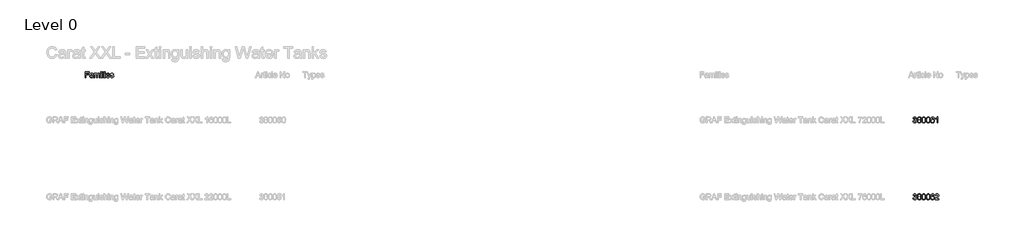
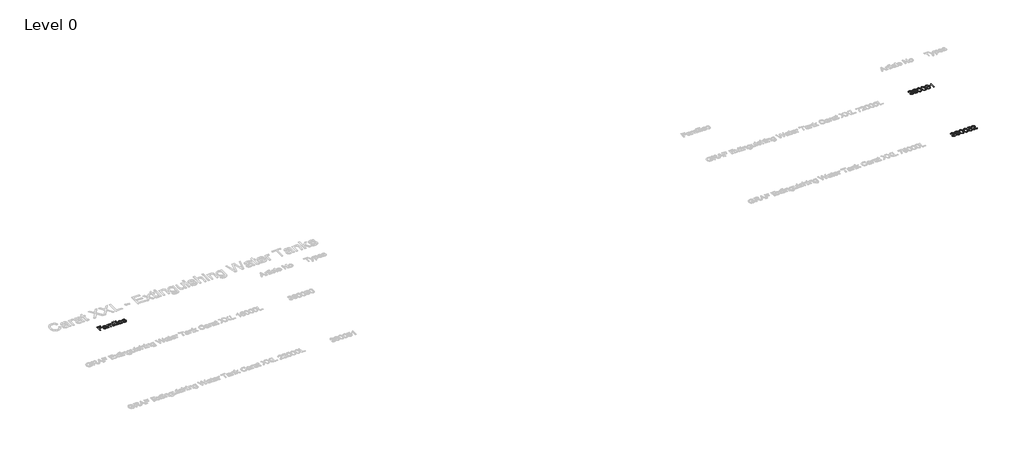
# One storey, part 34 of 37: 3 proxies.
"""IFC4 building model written with IfcOpenShell, lengths in millimetres."""

from ifc_helpers import new_model, si_unit, origin, origin_with_axes, place, context, project, spatial, polyline, outline, extrude, element, save

model = new_model("IFC4")

# Units and contexts
model_context = context("Model", 3, world=origin())
ifc_project = project(units=[si_unit("LENGTHUNIT", "METRE", prefix="MILLI")], contexts=[model_context])

# Site, building, storey
site = spatial("IfcSite", under=ifc_project)
building = spatial("IfcBuilding", under=site)
storey = spatial("IfcBuildingStorey", under=building, Name="Level 0", Elevation=0.0)

# Proxies
placement = place(None, origin())
element("IfcBuildingElementProxy", 1, Name="300mm Arial", ObjectType="300mm Arial", at=placement, inside=storey, context=model_context, shape_type="SweptSolid", body=[
    extrude(outline(polyline([(-15382.9152593, 653.8274553), (-15382.9152593, 949.2120707), (-15184.4537209, 949.2120707), (-15184.4537209, 912.2889938), (-15345.9921824, 912.2889938), (-15345.9921824, 824.5966861), (-15207.530644, 824.5966861), (-15207.530644, 787.6736092), (-15345.9921824, 787.6736092), (-15345.9921824, 653.8274553), (-15382.9152593, 653.8274553)])), origin_with_axes(), (0.0, 0.0, 1.0), 10.0),
    extrude(outline(polyline([(-14999.8383363, 681.519763), (-15017.4795622, 666.3935611), (-15035.6436247, 656.4957246), (-15054.7451872, 651.0329842), (-15075.1989132, 649.2120707), (-15106.0552834, 653.5930803), (-15128.8167017, 666.7361092), (-15142.8521584, 686.6940419), (-15147.530644, 711.519763), (-15145.763817, 726.8262534), (-15140.4633363, 740.7264938), (-15132.2872545, 752.6255323), (-15121.8936247, 761.9284169), (-15096.0402593, 774.0438015), (-15064.093144, 779.5966861), (-15026.3407401, 785.4380323), (-15000.0546824, 792.2889938), (-14999.8383363, 800.5101476), (-15002.3804036, 816.988513), (-15010.0066055, 827.769763), (-15027.061894, 835.7745707), (-15050.8239132, 838.44284), (-15072.8191055, 836.6669986), (-15088.1796824, 831.3394746), (-15098.654442, 821.4867101), (-15105.9921824, 806.1351476), (-15142.9152593, 810.7505323), (-15136.5060045, 830.94284), (-15126.9417017, 846.8082246), (-15113.3299228, 858.941638), (-15094.7782401, 867.9380323), (-15072.0889372, 873.5089457), (-15046.0642978, 875.3659169), (-15021.1033603, 873.7252919), (-15001.3167017, 868.8034169), (-14986.3978315, 861.4025755), (-14976.0402593, 852.3250515), (-14969.171269, 841.1020948), (-14964.718144, 827.2649553), (-14962.9152593, 794.957263), (-14962.9152593, 749.019763), (-14961.0402593, 684.8731284), (-14953.6844901, 653.8274553), (-14990.607567, 653.8274553), (-14999.8383363, 681.519763)]), holes=[polyline([(-14999.8383363, 755.3659169), (-15059.405644, 744.0438015), (-15091.1724709, 738.0582246), (-15105.5594901, 728.3226476), (-15110.607567, 714.1159169), (-15107.858168, 703.1363496), (-15099.6099709, 694.1399553), (-15086.0432642, 688.1363496), (-15067.3383363, 686.1351476), (-15047.5066055, 688.3436813), (-15029.982567, 694.9692823), (-15015.7758363, 704.7319025), (-15005.8960286, 716.3514938), (-15001.515019, 728.3226476), (-15000.0546824, 744.9091861), (-14999.8383363, 755.3659169)])]), origin_with_axes(), (0.0, 0.0, 1.0), 10.0),
    extrude(outline(polyline([(-14912.1460286, 653.8274553), (-14912.1460286, 870.7505323), (-14875.2229517, 870.7505323), (-14875.2229517, 835.0534169), (-14864.1171824, 851.4506525), (-14849.8383363, 864.2962053), (-14832.873192, 872.598489), (-14813.7085286, 875.3659169), (-14793.1736728, 872.5444025), (-14776.7133363, 864.0798592), (-14764.4176632, 850.5311813), (-14756.3767978, 832.457263), (-14742.9182642, 851.2297991), (-14727.5667017, 864.6387534), (-14710.3221103, 872.684126), (-14691.1844901, 875.3659169), (-14663.4290815, 870.9037775), (-14642.9032401, 857.5173592), (-14630.2199468, 834.8460851), (-14625.9921824, 802.5293784), (-14625.9921824, 653.8274553), (-14662.9152593, 653.8274553), (-14662.9152593, 786.6639938), (-14666.3407401, 817.4933207), (-14671.154442, 825.9939217), (-14678.7445863, 832.6736092), (-14688.5072065, 837.0005323), (-14699.8383363, 838.44284), (-14719.8413411, 834.7469265), (-14736.1484324, 823.6591861), (-14746.9927834, 804.4224073), (-14750.607567, 776.2793784), (-14750.607567, 653.8274553), (-14787.530644, 653.8274553), (-14787.530644, 790.7745707), (-14789.6670622, 811.6519746), (-14796.076317, 826.5438015), (-14807.3533603, 835.4680803), (-14824.093144, 838.44284), (-14838.3179036, 836.4596669), (-14851.4248747, 830.5101476), (-14862.2421824, 820.738513), (-14869.5979517, 807.2889938), (-14873.8167017, 788.629138), (-14875.2229517, 763.2264938), (-14875.2229517, 653.8274553), (-14912.1460286, 653.8274553)])), origin_with_axes(), (0.0, 0.0, 1.0), 10.0),
    extrude(outline(polyline([(-14570.607567, 912.2889938), (-14570.607567, 949.2120707), (-14533.6844901, 949.2120707), (-14533.6844901, 912.2889938), (-14570.607567, 912.2889938)])), origin_with_axes(), (0.0, 0.0, 1.0), 10.0),
    extrude(outline(polyline([(-14570.607567, 653.8274553), (-14570.607567, 870.7505323), (-14533.6844901, 870.7505323), (-14533.6844901, 653.8274553), (-14570.607567, 653.8274553)])), origin_with_axes(), (0.0, 0.0, 1.0), 10.0),
    extrude(outline(polyline([(-14478.2998747, 653.8274553), (-14478.2998747, 949.2120707), (-14441.3767978, 949.2120707), (-14441.3767978, 653.8274553), (-14478.2998747, 653.8274553)])), origin_with_axes(), (0.0, 0.0, 1.0), 10.0),
    extrude(outline(polyline([(-14385.9921824, 912.2889938), (-14385.9921824, 949.2120707), (-14349.0691055, 949.2120707), (-14349.0691055, 912.2889938), (-14385.9921824, 912.2889938)])), origin_with_axes(), (0.0, 0.0, 1.0), 10.0),
    extrude(outline(polyline([(-14385.9921824, 653.8274553), (-14385.9921824, 870.7505323), (-14349.0691055, 870.7505323), (-14349.0691055, 653.8274553), (-14385.9921824, 653.8274553)])), origin_with_axes(), (0.0, 0.0, 1.0), 10.0),
    extrude(outline(polyline([(-14141.8094901, 718.44284), (-14105.607567, 713.8274553), (-14118.6514372, 686.5498111), (-14139.4657401, 666.1591861), (-14167.5817257, 653.4488496), (-14202.530644, 649.2120707), (-14225.4408002, 651.039745), (-14245.8539613, 656.5227678), (-14263.7701271, 665.6611392), (-14279.1892978, 678.4548592), (-14291.5886367, 694.547858), (-14300.4453074, 713.5840659), (-14305.7593098, 735.563483), (-14307.530644, 760.4861092), (-14305.741281, 786.2538375), (-14300.373192, 808.9656765), (-14291.4263771, 828.621626), (-14278.9008363, 845.2216861), (-14263.5222305, 858.4097871), (-14246.0162209, 867.8298592), (-14226.3828074, 873.4819025), (-14204.6219901, 875.3659169), (-14183.5620442, 873.4864097), (-14164.5168218, 867.847888), (-14147.486323, 858.450352), (-14132.4705478, 845.2938015), (-14120.213186, 828.7297991), (-14111.4579276, 809.1099073), (-14106.2047726, 786.434126), (-14104.4537209, 760.7024553), (-14104.670067, 750.7505323), (-14270.607567, 750.7505323), (-14264.2163411, 723.1123111), (-14249.3695863, 702.7938015), (-14227.9423026, 690.2998111), (-14201.8094901, 686.1351476), (-14182.1580478, 688.0642342), (-14165.607567, 693.8514938), (-14152.1580478, 703.8575034), (-14141.8094901, 718.44284)]), holes=[polyline([(-14270.607567, 787.6736092), (-14141.3767978, 787.6736092), (-14146.3707882, 807.1808207), (-14156.1604517, 821.1351476), (-14177.686894, 834.1159169), (-14204.7662209, 838.44284), (-14229.655043, 834.9903159), (-14250.2349709, 824.6327438), (-14264.5408603, 808.4879121), (-14270.607567, 787.6736092)])]), origin_with_axes(), (0.0, 0.0, 1.0), 10.0),
    extrude(outline(polyline([(-14081.3767978, 718.44284), (-14044.4537209, 723.0582246), (-14038.6304036, 707.2649553), (-14027.3623747, 695.6543784), (-14010.577519, 688.5149553), (-13988.2037209, 686.1351476), (-13966.1003555, 688.316638), (-13950.5594901, 694.8611092), (-13941.3647786, 704.3442823), (-13938.2998747, 715.3418784), (-13941.3828074, 724.7529361), (-13950.6316055, 731.9284169), (-13988.6364132, 742.457263), (-14044.2373747, 760.5221669), (-14058.3088892, 769.5996909), (-14068.5042017, 781.6159169), (-14074.6971103, 795.8046188), (-14076.7614132, 811.3995707), (-14075.1027593, 825.7054601), (-14070.1267978, 838.91159), (-14062.2842497, 850.4951236), (-14052.0258363, 859.9332246), (-14028.5522786, 870.8587053), (-13996.7854517, 875.3659169), (-13972.7529997, 873.5540178), (-13951.857567, 868.1183207), (-13935.0546824, 859.5906765), (-13923.2998747, 848.5029361), (-13915.5114132, 834.0347871), (-13910.607567, 815.3659169), (-13947.530644, 810.7505323), (-13952.1911007, 822.3701236), (-13961.4128555, 831.1231284), (-13975.2860526, 836.6129121), (-13993.9008363, 838.44284), (-14015.1027593, 836.6940419), (-14029.2373747, 831.4476476), (-14037.1880959, 823.8755323), (-14039.8383363, 815.1495707), (-14035.4392978, 804.4043784), (-14021.6652593, 796.25534), (-13989.8623747, 788.394763), (-13935.6676632, 771.0149553), (-13921.3527593, 762.7036573), (-13910.499394, 751.3274553), (-13903.6574468, 736.8502919), (-13901.3767978, 719.2361092), (-13904.0540815, 701.0269746), (-13912.0859324, 683.8995707), (-13925.1658603, 669.1970467), (-13942.9873747, 658.2625515), (-13964.513817, 651.4746909), (-13988.7085286, 649.2120707), (-14025.9380959, 653.5750515), (-14053.107567, 666.6639938), (-14071.2445863, 688.3346669), (-14081.3767978, 718.44284)])), origin_with_axes(), (0.0, 0.0, 1.0), 10.0),
])
element("IfcBuildingElementProxy", 2, Name="300mm Arial", ObjectType="300mm Arial", at=placement, inside=storey, context=model_context, shape_type="SweptSolid", body=[
    extrude(outline(polyline([(27688.7153576, -1620.925676), (27726.3864739, -1616.2167865), (27734.8201687, -1639.8899929), (27747.1718066, -1655.8744656), (27764.0483932, -1664.979545), (27786.0569335, -1668.0145714), (27811.8822496, -1663.8391108), (27831.8214537, -1651.3127288), (27844.5685649, -1632.6243235), (27848.8176019, -1609.9627926), (27844.6053531, -1588.4508929), (27831.9686065, -1571.0040893), (27812.8387428, -1559.4433976), (27789.1471423, -1555.5898337), (27762.733215, -1559.710112), (27766.9270698, -1522.0389957), (27772.9603345, -1522.4804541), (27795.5298949, -1519.7765215), (27815.7082223, -1511.6647235), (27829.9452556, -1497.942725), (27834.6909333, -1478.4081911), (27831.2512366, -1462.1386099), (27820.9321467, -1448.9408433), (27805.1867973, -1440.1944488), (27785.4683223, -1437.278984), (27765.7130592, -1440.22204), (27749.5630396, -1449.0512079), (27737.7724217, -1463.7664877), (27731.0953635, -1484.3678794), (27693.4242472, -1479.6589899), (27704.5158893, -1445.8322404), (27724.2527583, -1420.5771415), (27751.2552968, -1404.8501862), (27784.1439472, -1399.6078677), (27807.8263506, -1402.1922387), (27829.5773736, -1409.9453518), (27847.916291, -1422.1774281), (27861.362378, -1438.198689), (27869.6121317, -1456.6571681), (27872.3620496, -1476.2008991), (27869.7500874, -1494.4110579), (27861.9142009, -1510.9289595), (27848.9647547, -1525.0004458), (27831.0121133, -1535.8713587), (27854.5933492, -1545.3995024), (27872.067744, -1561.6230984), (27882.8834747, -1583.6592299), (27886.4887182, -1610.6249802), (27884.6860964, -1629.7364498), (27879.2782311, -1647.3396033), (27870.2651222, -1663.4344406), (27857.6467698, -1678.0209617), (27842.2739009, -1690.1242793), (27824.9972427, -1698.7695062), (27805.8167952, -1703.9566423), (27784.7325584, -1705.6856877), (27765.676271, -1704.2095612), (27748.3122408, -1699.7811817), (27732.6404678, -1692.4005492), (27718.660952, -1682.0676636), (27706.9393119, -1669.3895304), (27698.0411662, -1654.9731547), (27691.9665147, -1638.8185366), (27688.7153576, -1620.925676)])), origin_with_axes(), (0.0, 0.0, 1.0), 10.0),
    extrude(outline(polyline([(27974.3389387, -1534.988442), (27954.1698083, -1525.0556281), (27940.0155485, -1511.5911471), (27931.6554302, -1494.8709104), (27928.8687241, -1475.1708295), (27930.3862373, -1459.8071577), (27934.938777, -1445.7218758), (27942.5263431, -1432.9149839), (27953.1489357, -1421.3864818), (27966.2961185, -1411.8583382), (27981.4574553, -1405.0525213), (28017.8225905, -1399.6078677), (28054.4084549, -1405.18128), (28069.7353385, -1412.1480452), (28083.0848564, -1421.9015166), (28093.9005871, -1433.6553464), (28101.626109, -1446.6231867), (28106.2614221, -1460.8050376), (28107.8065265, -1476.2008991), (28105.0566086, -1495.2663835), (28096.8068549, -1511.7015117), (28082.9652948, -1525.0832192), (28063.4399579, -1534.988442), (28086.6257206, -1546.9354097), (28103.5023072, -1564.5293662), (28113.793806, -1586.9241826), (28117.2243056, -1613.2737305), (28115.5228514, -1632.0633034), (28110.4184887, -1649.2893779), (28101.9112175, -1664.9519538), (28090.001038, -1679.0510313), (28075.3133493, -1690.7036935), (28058.473551, -1699.0270236), (28039.481643, -1704.0210217), (28018.3376253, -1705.6856877), (27997.1936076, -1704.0141239), (27978.2016996, -1698.9994325), (27961.3619013, -1690.6416134), (27946.6742126, -1678.9406667), (27934.764033, -1664.7427209), (27926.2567619, -1648.8939047), (27921.1523992, -1631.3942181), (27919.450945, -1612.2436609), (27923.0194003, -1584.8732405), (27933.7247664, -1562.3588624), (27951.0152202, -1545.4730788), (27974.3389387, -1534.988442)]), holes=[polyline([(27966.5398404, -1476.2744755), (27969.8783695, -1492.7188007), (27979.8939568, -1505.8521879), (27996.2922967, -1514.4606266), (28018.7790837, -1517.3301062), (28040.7416388, -1514.4790207), (28056.8916584, -1505.9257643), (28066.8244723, -1493.2338355), (28070.1354102, -1477.9667327), (28066.7141077, -1462.1202158), (28056.4502, -1449.0144197), (28040.0794512, -1440.2128429), (28018.3376253, -1437.278984), (27996.4578436, -1440.1484636), (27980.114686, -1448.7569023), (27969.9335518, -1461.3752547), (27966.5398404, -1476.2744755)]), polyline([(27957.1220613, -1610.9192858), (27963.4128434, -1639.2829876), (27972.1224496, -1651.4506846), (27985.6697041, -1660.5097787), (28001.8933001, -1666.1383732), (28018.6319309, -1668.0145714), (28044.273306, -1664.069037), (28063.5135343, -1652.2324338), (28075.5432755, -1634.3073836), (28079.5531893, -1612.0965081), (28075.4145168, -1589.5085536), (28062.9984995, -1571.1880303), (28043.3168128, -1559.0479244), (28017.3811321, -1555.0012225), (27992.098442, -1558.9927421), (27973.0513517, -1570.9673011), (27961.1043839, -1588.9383365), (27957.1220613, -1610.9192858)])]), origin_with_axes(), (0.0, 0.0, 1.0), 10.0),
    extrude(outline(polyline([(28150.1865324, -1552.7203541), (28152.9548444, -1504.4818275), (28161.2597804, -1466.0105679), (28175.018567, -1436.717964), (28194.1484308, -1416.0154047), (28218.7873274, -1403.709752), (28249.0732127, -1399.6078677), (28272.2865666, -1402.0358889), (28293.0718993, -1409.3199524), (28310.4543236, -1421.1749497), (28323.4589521, -1437.3157722), (28333.2814014, -1457.6044643), (28341.1172879, -1481.9030701), (28346.2492417, -1512.7591724), (28347.959893, -1552.7203541), (28345.2191721, -1600.6829692), (28336.9970095, -1639.0622584), (28323.3209963, -1668.3824534), (28304.2187237, -1689.1677861), (28279.5246448, -1701.5562123), (28249.0732127, -1705.6856877), (28228.3246681, -1703.892263), (28209.9305684, -1698.5119888), (28193.8909134, -1689.5448652), (28180.2057032, -1676.9908921), (28167.0723159, -1654.2971715), (28157.6913251, -1626.0208417), (28152.0627305, -1592.1619025), (28150.1865324, -1552.7203541)]), holes=[polyline([(28187.8576487, -1552.6467777), (28192.2722326, -1611.9033701), (28197.7904625, -1632.1713688), (28205.5159844, -1646.1991691), (28225.2344594, -1662.5607208), (28249.0732127, -1668.0145714), (28272.911966, -1662.5423267), (28292.6304409, -1646.1255927), (28300.3559628, -1632.0747997), (28305.8741927, -1611.8113996), (28310.2887767, -1552.6467777), (28306.0213455, -1494.7237576), (28300.6870566, -1474.5224375), (28293.2190521, -1460.1612441), (28273.5373653, -1442.9995491), (28248.6317543, -1437.278984), (28225.0505184, -1442.3189674), (28206.1045956, -1457.4389174), (28198.1215563, -1473.0739022), (28192.4193854, -1494.1535405), (28187.8576487, -1552.6467777)])]), origin_with_axes(), (0.0, 0.0, 1.0), 10.0),
    extrude(outline(polyline([(28380.9221197, -1552.7203541), (28383.6904318, -1504.4818275), (28391.9953678, -1466.0105679), (28405.7541544, -1436.717964), (28424.8840182, -1416.0154047), (28449.5229148, -1403.709752), (28479.8088, -1399.6078677), (28503.0221539, -1402.0358889), (28523.8074867, -1409.3199524), (28541.1899109, -1421.1749497), (28554.1945395, -1437.3157722), (28564.0169887, -1457.6044643), (28571.8528752, -1481.9030701), (28576.9848291, -1512.7591724), (28578.6954803, -1552.7203541), (28575.9547595, -1600.6829692), (28567.7325969, -1639.0622584), (28554.0565837, -1668.3824534), (28534.9543111, -1689.1677861), (28510.2602322, -1701.5562123), (28479.8088, -1705.6856877), (28459.0602555, -1703.892263), (28440.6661558, -1698.5119888), (28424.6265008, -1689.5448652), (28410.9412905, -1676.9908921), (28397.8079033, -1654.2971715), (28388.4269124, -1626.0208417), (28382.7983179, -1592.1619025), (28380.9221197, -1552.7203541)]), holes=[polyline([(28418.593236, -1552.6467777), (28423.00782, -1611.9033701), (28428.5260499, -1632.1713688), (28436.2515718, -1646.1991691), (28455.9700468, -1662.5607208), (28479.8088, -1668.0145714), (28503.6475533, -1662.5423267), (28523.3660283, -1646.1255927), (28531.0915502, -1632.0747997), (28536.6097801, -1611.8113996), (28541.024364, -1552.6467777), (28536.7569329, -1494.7237576), (28531.422644, -1474.5224375), (28523.9546395, -1460.1612441), (28504.2729527, -1442.9995491), (28479.3673416, -1437.278984), (28455.7861058, -1442.3189674), (28436.840183, -1457.4389174), (28428.8571437, -1473.0739022), (28423.1549728, -1494.1535405), (28418.593236, -1552.6467777)])]), origin_with_axes(), (0.0, 0.0, 1.0), 10.0),
    extrude(outline(polyline([(28804.7221782, -1479.6589899), (28767.0510619, -1484.3678794), (28760.981009, -1465.6978682), (28752.7772405, -1452.950757), (28735.6891218, -1441.1969273), (28715.0325478, -1437.278984), (28697.5213648, -1439.5598524), (28681.0402514, -1446.4024575), (28666.8859916, -1460.8142347), (28655.3252999, -1480.6522713), (28647.5170046, -1508.7124704), (28644.6199339, -1547.7907354), (28659.7306868, -1530.1599908), (28677.839678, -1517.7347764), (28697.935232, -1510.3679394), (28719.0056733, -1507.9123271), (28737.1054675, -1509.5907887), (28753.80731, -1514.6261735), (28769.111201, -1523.0184815), (28783.0171405, -1534.7677128), (28794.5732336, -1549.1748914), (28802.8275859, -1565.5410417), (28807.7801973, -1583.8661635), (28809.4310677, -1604.150257), (28806.3224649, -1631.1252043), (28796.9966563, -1656.131983), (28782.2261942, -1677.34038), (28762.7836307, -1692.9201825), (28739.5518827, -1702.4943114), (28713.413867, -1705.6856877), (28690.9569704, -1703.5703662), (28670.6751762, -1697.2244018), (28652.5684842, -1686.6477945), (28636.6368946, -1671.8405442), (28623.6483609, -1652.1772515), (28614.3708368, -1627.0325171), (28608.8043224, -1596.406341), (28606.9488176, -1560.2987232), (28609.0089567, -1519.8179082), (28615.1893743, -1485.2691903), (28625.4900701, -1456.6525696), (28639.9110443, -1433.9680461), (28655.5414306, -1418.9354681), (28673.6642174, -1408.1979123), (28694.2794047, -1401.7553789), (28717.3869925, -1399.6078677), (28750.4411898, -1404.9237626), (28776.9102993, -1420.8714471), (28795.4515519, -1446.2001224), (28804.7221782, -1479.6589899)]), holes=[polyline([(28644.6199339, -1603.5616459), (28646.7996347, -1620.2542914), (28653.3387372, -1636.1927788), (28663.4922802, -1649.8963831), (28676.5153029, -1659.8843793), (28692.2330611, -1665.9820234), (28710.470811, -1668.0145714), (28735.3304368, -1663.8023226), (28754.8741678, -1651.165576), (28767.5385055, -1631.2999483), (28771.7599514, -1605.4010558), (28767.5936878, -1580.54143), (28755.094897, -1561.5863102), (28735.2200722, -1549.5841601), (28708.9257066, -1545.5834434), (28684.102869, -1549.5841601), (28663.3451274, -1561.5863102), (28649.3012323, -1580.0815775), (28644.6199339, -1603.5616459)])]), origin_with_axes(), (0.0, 0.0, 1.0), 10.0),
    extrude(outline(polyline([(28983.6599806, -1700.9767982), (28945.9888643, -1700.9767982), (28945.9888643, -1466.1209325), (28910.3043108, -1491.5415783), (28870.6466317, -1510.5610775), (28870.6466317, -1474.9501003), (28900.2335412, -1458.8552631), (28925.8657192, -1439.7070052), (28946.0716378, -1419.3447368), (28959.379769, -1399.6078677), (28983.6599806, -1399.6078677), (28983.6599806, -1700.9767982)])), origin_with_axes(), (0.0, 0.0, 1.0), 10.0),
])
element("IfcBuildingElementProxy", 3, Name="300mm Arial", ObjectType="300mm Arial", at=placement, inside=storey, context=model_context, shape_type="SweptSolid", body=[
    extrude(outline(polyline([(27688.7153576, -5620.925676), (27726.3864739, -5616.2167865), (27734.8201687, -5639.8899929), (27747.1718066, -5655.8744656), (27764.0483932, -5664.979545), (27786.0569335, -5668.0145714), (27811.8822496, -5663.8391108), (27831.8214537, -5651.3127288), (27844.5685649, -5632.6243235), (27848.8176019, -5609.9627926), (27844.6053531, -5588.4508929), (27831.9686065, -5571.0040893), (27812.8387428, -5559.4433976), (27789.1471423, -5555.5898337), (27762.733215, -5559.710112), (27766.9270698, -5522.0389957), (27772.9603345, -5522.4804541), (27795.5298949, -5519.7765215), (27815.7082223, -5511.6647235), (27829.9452556, -5497.942725), (27834.6909333, -5478.4081911), (27831.2512366, -5462.1386099), (27820.9321467, -5448.9408433), (27805.1867973, -5440.1944488), (27785.4683223, -5437.278984), (27765.7130592, -5440.22204), (27749.5630396, -5449.0512079), (27737.7724217, -5463.7664877), (27731.0953635, -5484.3678794), (27693.4242472, -5479.6589899), (27704.5158893, -5445.8322404), (27724.2527583, -5420.5771415), (27751.2552968, -5404.8501862), (27784.1439472, -5399.6078677), (27807.8263506, -5402.1922387), (27829.5773736, -5409.9453518), (27847.916291, -5422.1774281), (27861.362378, -5438.198689), (27869.6121317, -5456.6571681), (27872.3620496, -5476.2008991), (27869.7500874, -5494.4110579), (27861.9142009, -5510.9289595), (27848.9647547, -5525.0004458), (27831.0121133, -5535.8713587), (27854.5933492, -5545.3995024), (27872.067744, -5561.6230984), (27882.8834747, -5583.6592299), (27886.4887182, -5610.6249802), (27884.6860964, -5629.7364498), (27879.2782311, -5647.3396033), (27870.2651222, -5663.4344406), (27857.6467698, -5678.0209617), (27842.2739009, -5690.1242793), (27824.9972427, -5698.7695062), (27805.8167952, -5703.9566423), (27784.7325584, -5705.6856877), (27765.676271, -5704.2095612), (27748.3122408, -5699.7811817), (27732.6404678, -5692.4005492), (27718.660952, -5682.0676636), (27706.9393119, -5669.3895304), (27698.0411662, -5654.9731547), (27691.9665147, -5638.8185366), (27688.7153576, -5620.925676)])), origin_with_axes(), (0.0, 0.0, 1.0), 10.0),
    extrude(outline(polyline([(27974.3389387, -5534.988442), (27954.1698083, -5525.0556281), (27940.0155485, -5511.5911471), (27931.6554302, -5494.8709104), (27928.8687241, -5475.1708295), (27930.3862373, -5459.8071577), (27934.938777, -5445.7218758), (27942.5263431, -5432.9149839), (27953.1489357, -5421.3864818), (27966.2961185, -5411.8583382), (27981.4574553, -5405.0525213), (28017.8225905, -5399.6078677), (28054.4084549, -5405.18128), (28069.7353385, -5412.1480452), (28083.0848564, -5421.9015166), (28093.9005871, -5433.6553464), (28101.626109, -5446.6231867), (28106.2614221, -5460.8050376), (28107.8065265, -5476.2008991), (28105.0566086, -5495.2663835), (28096.8068549, -5511.7015117), (28082.9652948, -5525.0832192), (28063.4399579, -5534.988442), (28086.6257206, -5546.9354097), (28103.5023072, -5564.5293662), (28113.793806, -5586.9241826), (28117.2243056, -5613.2737305), (28115.5228514, -5632.0633034), (28110.4184887, -5649.2893779), (28101.9112175, -5664.9519538), (28090.001038, -5679.0510313), (28075.3133493, -5690.7036935), (28058.473551, -5699.0270236), (28039.481643, -5704.0210217), (28018.3376253, -5705.6856877), (27997.1936076, -5704.0141239), (27978.2016996, -5698.9994325), (27961.3619013, -5690.6416134), (27946.6742126, -5678.9406667), (27934.764033, -5664.7427209), (27926.2567619, -5648.8939047), (27921.1523992, -5631.3942181), (27919.450945, -5612.2436609), (27923.0194003, -5584.8732405), (27933.7247664, -5562.3588624), (27951.0152202, -5545.4730788), (27974.3389387, -5534.988442)]), holes=[polyline([(27966.5398404, -5476.2744755), (27969.8783695, -5492.7188007), (27979.8939568, -5505.8521879), (27996.2922967, -5514.4606266), (28018.7790837, -5517.3301062), (28040.7416388, -5514.4790207), (28056.8916584, -5505.9257643), (28066.8244723, -5493.2338355), (28070.1354102, -5477.9667327), (28066.7141077, -5462.1202158), (28056.4502, -5449.0144197), (28040.0794512, -5440.2128429), (28018.3376253, -5437.278984), (27996.4578436, -5440.1484636), (27980.114686, -5448.7569023), (27969.9335518, -5461.3752547), (27966.5398404, -5476.2744755)]), polyline([(27957.1220613, -5610.9192858), (27963.4128434, -5639.2829876), (27972.1224496, -5651.4506846), (27985.6697041, -5660.5097787), (28001.8933001, -5666.1383732), (28018.6319309, -5668.0145714), (28044.273306, -5664.069037), (28063.5135343, -5652.2324338), (28075.5432755, -5634.3073836), (28079.5531893, -5612.0965081), (28075.4145168, -5589.5085536), (28062.9984995, -5571.1880303), (28043.3168128, -5559.0479244), (28017.3811321, -5555.0012225), (27992.098442, -5558.9927421), (27973.0513517, -5570.9673011), (27961.1043839, -5588.9383365), (27957.1220613, -5610.9192858)])]), origin_with_axes(), (0.0, 0.0, 1.0), 10.0),
    extrude(outline(polyline([(28150.1865324, -5552.7203541), (28152.9548444, -5504.4818275), (28161.2597804, -5466.0105679), (28175.018567, -5436.717964), (28194.1484308, -5416.0154047), (28218.7873274, -5403.709752), (28249.0732127, -5399.6078677), (28272.2865666, -5402.0358889), (28293.0718993, -5409.3199524), (28310.4543236, -5421.1749497), (28323.4589521, -5437.3157722), (28333.2814014, -5457.6044643), (28341.1172879, -5481.9030701), (28346.2492417, -5512.7591724), (28347.959893, -5552.7203541), (28345.2191721, -5600.6829692), (28336.9970095, -5639.0622584), (28323.3209963, -5668.3824534), (28304.2187237, -5689.1677861), (28279.5246448, -5701.5562123), (28249.0732127, -5705.6856877), (28228.3246681, -5703.892263), (28209.9305684, -5698.5119888), (28193.8909134, -5689.5448652), (28180.2057032, -5676.9908921), (28167.0723159, -5654.2971715), (28157.6913251, -5626.0208417), (28152.0627305, -5592.1619025), (28150.1865324, -5552.7203541)]), holes=[polyline([(28187.8576487, -5552.6467777), (28192.2722326, -5611.9033701), (28197.7904625, -5632.1713688), (28205.5159844, -5646.1991691), (28225.2344594, -5662.5607208), (28249.0732127, -5668.0145714), (28272.911966, -5662.5423267), (28292.6304409, -5646.1255927), (28300.3559628, -5632.0747997), (28305.8741927, -5611.8113996), (28310.2887767, -5552.6467777), (28306.0213455, -5494.7237576), (28300.6870566, -5474.5224375), (28293.2190521, -5460.1612441), (28273.5373653, -5442.9995491), (28248.6317543, -5437.278984), (28225.0505184, -5442.3189674), (28206.1045956, -5457.4389174), (28198.1215563, -5473.0739022), (28192.4193854, -5494.1535405), (28187.8576487, -5552.6467777)])]), origin_with_axes(), (0.0, 0.0, 1.0), 10.0),
    extrude(outline(polyline([(28380.9221197, -5552.7203541), (28383.6904318, -5504.4818275), (28391.9953678, -5466.0105679), (28405.7541544, -5436.717964), (28424.8840182, -5416.0154047), (28449.5229148, -5403.709752), (28479.8088, -5399.6078677), (28503.0221539, -5402.0358889), (28523.8074867, -5409.3199524), (28541.1899109, -5421.1749497), (28554.1945395, -5437.3157722), (28564.0169887, -5457.6044643), (28571.8528752, -5481.9030701), (28576.9848291, -5512.7591724), (28578.6954803, -5552.7203541), (28575.9547595, -5600.6829692), (28567.7325969, -5639.0622584), (28554.0565837, -5668.3824534), (28534.9543111, -5689.1677861), (28510.2602322, -5701.5562123), (28479.8088, -5705.6856877), (28459.0602555, -5703.892263), (28440.6661558, -5698.5119888), (28424.6265008, -5689.5448652), (28410.9412905, -5676.9908921), (28397.8079033, -5654.2971715), (28388.4269124, -5626.0208417), (28382.7983179, -5592.1619025), (28380.9221197, -5552.7203541)]), holes=[polyline([(28418.593236, -5552.6467777), (28423.00782, -5611.9033701), (28428.5260499, -5632.1713688), (28436.2515718, -5646.1991691), (28455.9700468, -5662.5607208), (28479.8088, -5668.0145714), (28503.6475533, -5662.5423267), (28523.3660283, -5646.1255927), (28531.0915502, -5632.0747997), (28536.6097801, -5611.8113996), (28541.024364, -5552.6467777), (28536.7569329, -5494.7237576), (28531.422644, -5474.5224375), (28523.9546395, -5460.1612441), (28504.2729527, -5442.9995491), (28479.3673416, -5437.278984), (28455.7861058, -5442.3189674), (28436.840183, -5457.4389174), (28428.8571437, -5473.0739022), (28423.1549728, -5494.1535405), (28418.593236, -5552.6467777)])]), origin_with_axes(), (0.0, 0.0, 1.0), 10.0),
    extrude(outline(polyline([(28804.7221782, -5479.6589899), (28767.0510619, -5484.3678794), (28760.981009, -5465.6978682), (28752.7772405, -5452.950757), (28735.6891218, -5441.1969273), (28715.0325478, -5437.278984), (28697.5213648, -5439.5598524), (28681.0402514, -5446.4024575), (28666.8859916, -5460.8142347), (28655.3252999, -5480.6522713), (28647.5170046, -5508.7124704), (28644.6199339, -5547.7907354), (28659.7306868, -5530.1599908), (28677.839678, -5517.7347764), (28697.935232, -5510.3679394), (28719.0056733, -5507.9123271), (28737.1054675, -5509.5907887), (28753.80731, -5514.6261735), (28769.111201, -5523.0184815), (28783.0171405, -5534.7677128), (28794.5732336, -5549.1748914), (28802.8275859, -5565.5410417), (28807.7801973, -5583.8661635), (28809.4310677, -5604.150257), (28806.3224649, -5631.1252043), (28796.9966563, -5656.131983), (28782.2261942, -5677.34038), (28762.7836307, -5692.9201825), (28739.5518827, -5702.4943114), (28713.413867, -5705.6856877), (28690.9569704, -5703.5703662), (28670.6751762, -5697.2244018), (28652.5684842, -5686.6477945), (28636.6368946, -5671.8405442), (28623.6483609, -5652.1772515), (28614.3708368, -5627.0325171), (28608.8043224, -5596.406341), (28606.9488176, -5560.2987232), (28609.0089567, -5519.8179082), (28615.1893743, -5485.2691903), (28625.4900701, -5456.6525696), (28639.9110443, -5433.9680461), (28655.5414306, -5418.9354681), (28673.6642174, -5408.1979123), (28694.2794047, -5401.7553789), (28717.3869925, -5399.6078677), (28750.4411898, -5404.9237626), (28776.9102993, -5420.8714471), (28795.4515519, -5446.2001224), (28804.7221782, -5479.6589899)]), holes=[polyline([(28644.6199339, -5603.5616459), (28646.7996347, -5620.2542914), (28653.3387372, -5636.1927788), (28663.4922802, -5649.8963831), (28676.5153029, -5659.8843793), (28692.2330611, -5665.9820234), (28710.470811, -5668.0145714), (28735.3304368, -5663.8023226), (28754.8741678, -5651.165576), (28767.5385055, -5631.2999483), (28771.7599514, -5605.4010558), (28767.5936878, -5580.54143), (28755.094897, -5561.5863102), (28735.2200722, -5549.5841601), (28708.9257066, -5545.5834434), (28684.102869, -5549.5841601), (28663.3451274, -5561.5863102), (28649.3012323, -5580.0815775), (28644.6199339, -5603.5616459)])]), origin_with_axes(), (0.0, 0.0, 1.0), 10.0),
    extrude(outline(polyline([(29035.4577656, -5663.3056819), (29035.4577656, -5700.9767982), (28837.6844049, -5700.9767982), (28841.7311069, -5675.0043293), (28851.0201273, -5654.7064402), (28864.613367, -5635.0155564), (28884.2766596, -5614.4049677), (28911.7758388, -5591.3479636), (28952.4267992, -5555.2403458), (28976.8173755, -5528.5872952), (28989.0126637, -5506.9558339), (28993.0777597, -5485.9129838), (28989.2425899, -5467.0498345), (28977.7370805, -5451.3688645), (28960.0511536, -5440.8014541), (28937.6747312, -5437.278984), (28914.1762688, -5440.7186807), (28895.9201248, -5451.0377707), (28884.1387039, -5467.4269135), (28880.0644108, -5489.076769), (28842.3932945, -5484.3678794), (28851.525965, -5447.9291678), (28860.0723236, -5433.3932305), (28871.2720311, -5421.3129054), (28884.8675701, -5411.8169514), (28900.6014232, -5405.0341272), (28938.4840716, -5399.6078677), (28958.6738954, -5401.1161839), (28976.6426316, -5405.6411325), (28992.3902802, -5413.1827134), (29005.9168413, -5423.7409266), (29016.7808565, -5436.534023), (29024.5408674, -5450.7802533), (29029.1968739, -5466.4796174), (29030.748876, -5483.6321154), (29029.0750129, -5501.6491361), (29024.0534237, -5519.3534572), (29015.1414824, -5537.3612808), (29001.796563, -5556.2888095), (28980.5237866, -5578.885961), (28947.8282743, -5607.9026534), (28904.4917753, -5644.1390299), (28887.4956271, -5663.3056819), (29035.4577656, -5663.3056819)])), origin_with_axes(), (0.0, 0.0, 1.0), 10.0),
])

save(model, "model.ifc")
